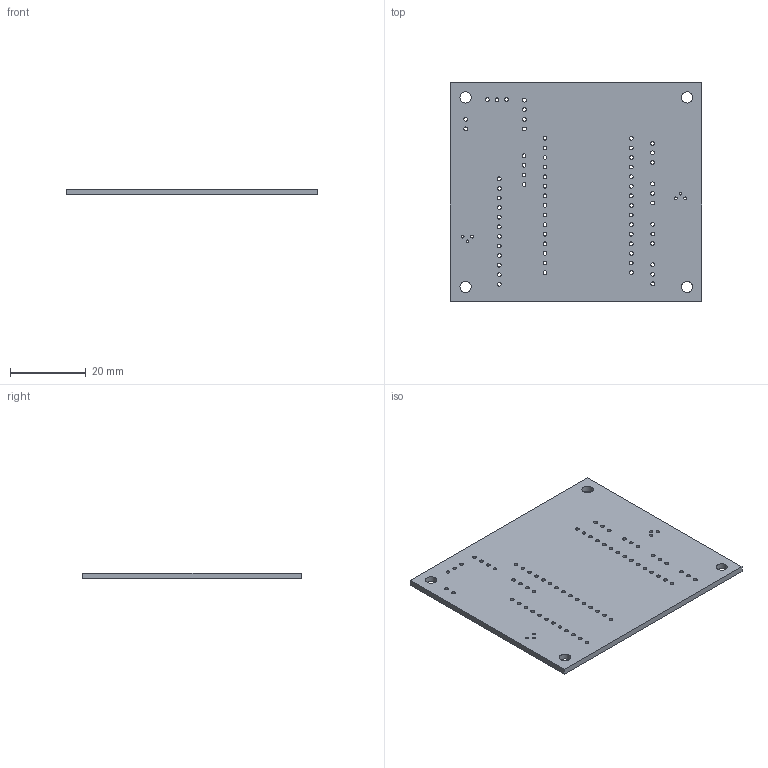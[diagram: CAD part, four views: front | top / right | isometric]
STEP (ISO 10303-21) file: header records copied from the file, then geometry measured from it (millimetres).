
FILE_DESCRIPTION(('KiCad electronic assembly'),'2;1');
FILE_NAME('Water_Quality_Smart_Monitor.step','2023-10-22T21:21:22',( 'Pcbnew'),('Kicad'),'Open CASCADE STEP processor 7.7', 'KiCad to STEP converter','Unknown');
FILE_SCHEMA(('AUTOMOTIVE_DESIGN { 1 0 10303 214 1 1 1 1 }'));
Length unit declared in the file: millimetre
Products named in the file (2): Water_Quality_Smart_Monitor 1; Water_Quality_Smart_Monitor PCB
Assembly tree (1 placements, depth 2):
  Water_Quality_Smart_Monitor 1
    Water_Quality_Smart_Monitor PCB
Bounding box: 66.59 x 57.76 x 1.58 mm (x, y, z)
Volume: 5945 mm3; surface area: 8332.8 mm2
Topology: 1 solids, 1 shells, 83 faces, 243 edges, 162 vertices
Faces by surface type: cylinder 77, plane 6
Full cylindrical faces by diameter (mm): 0.75 x6, 1 x67, 3 x4
Entity records: 6829 total; most frequent: CARTESIAN_POINT 1900, DIRECTION 899, ORIENTED_EDGE 486, PCURVE 486, DEFINITIONAL_REPRESENTATION 486, LINE 421, VECTOR 421, EDGE_CURVE 243
